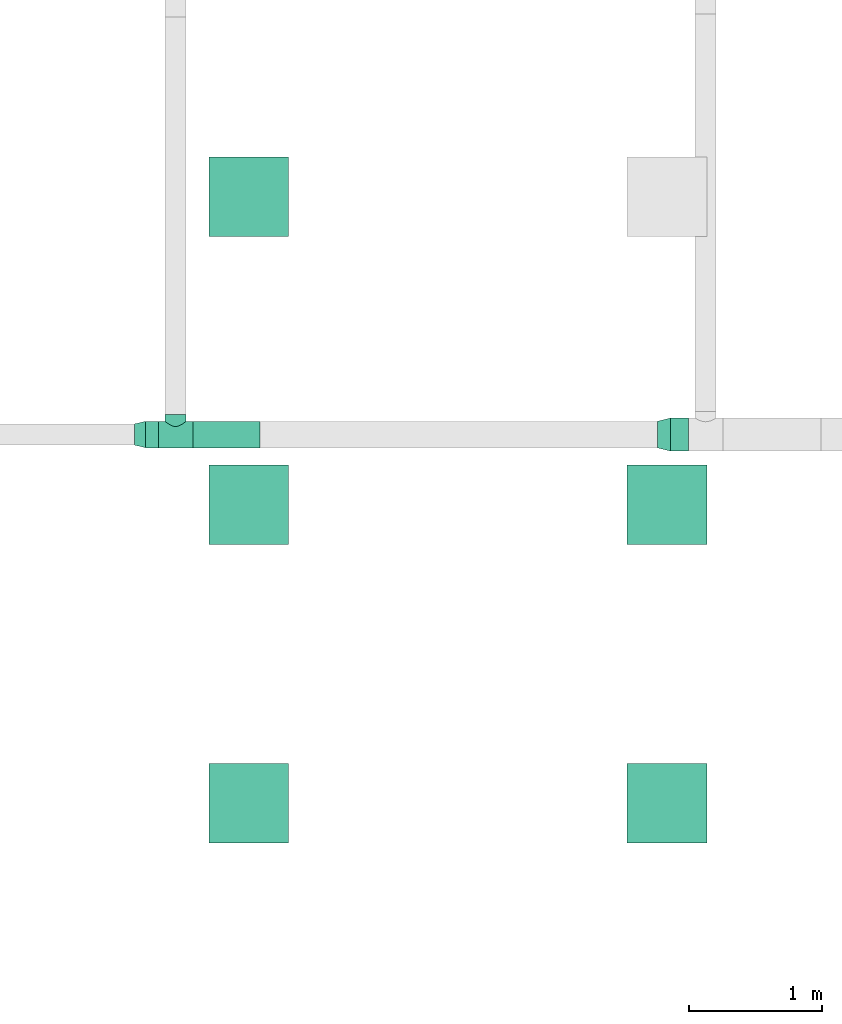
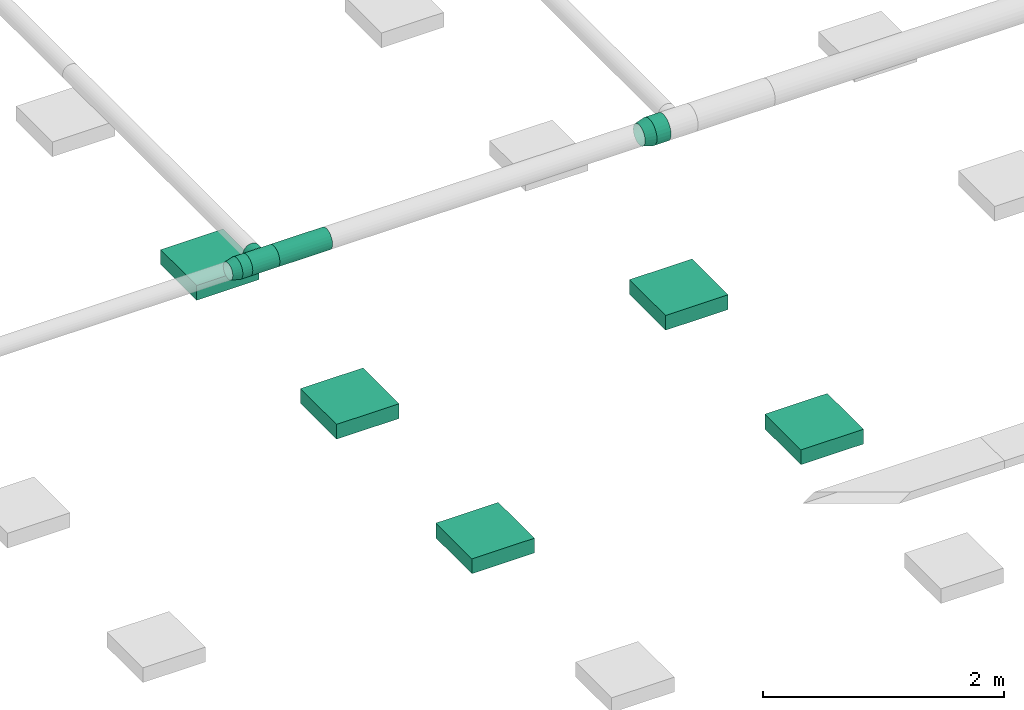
# One storey, part 20 of 374: 5 distribution elements, 3 flow fittings, 3 flow segments.
"""IFC2X3 building model written with IfcOpenShell, lengths in metres."""

import ifcopenshell
import ifcopenshell.guid

model = None  # the IFC model being written
_history = None  # IfcOwnerHistory: only IFC2X3 demands one
_inside = {}  # id of a spatial element -> (the spatial element, [elements in it])
_under = {}  # id of a project, library or spatial element -> (it, [spatial elements below it])
_declared = {}  # id of a project -> (the project, [libraries it declares])
_typed = {}  # id of a type object -> (the type object, [elements of that type])
_made_of = {}  # id of a material, layer set ... -> (it, [elements and type objects made of it])


def new_model(schema):
    """Start an empty IFC model of exactly this schema.

    Asked for "IFC4X3", IfcOpenShell would pick the latest addendum, in which some entities
    have other attributes; the version numbers below select the first issue.
    IFC2X3 requires an IfcOwnerHistory on every rooted entity: one is made here for all.
    """
    global model, _history
    if schema == "IFC4X3":
        model = ifcopenshell.file(schema_version=(4, 3, 0, 0))
    else:
        model = ifcopenshell.file(schema=schema)
    _inside.clear()
    _under.clear()
    _declared.clear()
    _typed.clear()
    _made_of.clear()
    _history = None
    if model.schema == "IFC2X3":
        org = make("IfcOrganization", Name="unknown")
        user = make(
            "IfcPersonAndOrganization",
            ThePerson=make("IfcPerson", FamilyName="unknown"),
            TheOrganization=org,
        )
        app = make(
            "IfcApplication",
            ApplicationDeveloper=org,
            Version="unknown",
            ApplicationFullName="unknown",
            ApplicationIdentifier="unknown",
        )
        _history = make(
            "IfcOwnerHistory",
            OwningUser=user,
            OwningApplication=app,
            ChangeAction="ADDED",
            CreationDate=0,
        )
    return model


def make(cls, **values):
    """One entity of the class cls with the attributes given. An attribute that is None is left unset."""
    return model.create_entity(
        cls, **{name: value for name, value in values.items() if value is not None}
    )


def rooted(cls, **values):
    """An entity with a GlobalId (a new one), such as an element, a storey or a relation."""
    return make(cls, GlobalId=ifcopenshell.guid.new(), OwnerHistory=_history, **values)


def si_unit(unit_type, name, prefix=None):
    """IfcSIUnit, for example si_unit("LENGTHUNIT", "METRE", prefix="MILLI")."""
    return make("IfcSIUnit", UnitType=unit_type, Prefix=prefix, Name=name)


def assignment(units):
    """IfcUnitAssignment: the units of a project."""
    return None if units is None else make("IfcUnitAssignment", Units=units)


def point(xyz):
    """IfcCartesianPoint."""
    return None if xyz is None else make("IfcCartesianPoint", Coordinates=xyz)


def direction(xyz):
    """IfcDirection."""
    return None if xyz is None else make("IfcDirection", DirectionRatios=xyz)


def frame(location, z_axis=None, x_axis=None):
    """IfcAxis2Placement3D, a coordinate frame: its origin and axes. An axis left out is left unset."""
    return make(
        "IfcAxis2Placement3D",
        Location=point(location),
        Axis=direction(z_axis),
        RefDirection=direction(x_axis),
    )


def frame_2d(location, x_axis=None):
    """IfcAxis2Placement2D, a coordinate frame in the plane: its origin and x axis."""
    return make(
        "IfcAxis2Placement2D", Location=point(location), RefDirection=direction(x_axis)
    )


def origin():
    """The frame at (0, 0, 0) with its axes left unset."""
    return frame((0.0, 0.0, 0.0))


def place(relative_to, where):
    """IfcLocalPlacement: puts the frame where relative to a parent placement (None: the world)."""
    return make(
        "IfcLocalPlacement", PlacementRelTo=relative_to, RelativePlacement=where
    )


def context(
    kind, dimensions, precision=None, world=None, true_north=None, identifier=None
):
    """IfcGeometricRepresentationContext, for example the 3D "Model" context."""
    return make(
        "IfcGeometricRepresentationContext",
        ContextIdentifier=identifier,
        ContextType=kind,
        CoordinateSpaceDimension=dimensions,
        Precision=precision,
        WorldCoordinateSystem=world,
        TrueNorth=true_north,
    )


def subcontext(parent, identifier, kind, view, scale=None):
    """IfcGeometricRepresentationSubContext, for example "Body" below "Model"."""
    return make(
        "IfcGeometricRepresentationSubContext",
        ContextIdentifier=identifier,
        ContextType=kind,
        ParentContext=parent,
        TargetScale=scale,
        TargetView=view,
    )


def project(units=None, contexts=None):
    """IfcProject with its units and contexts."""
    return rooted(
        "IfcProject",
        Name="project",
        RepresentationContexts=contexts,
        UnitsInContext=assignment(units),
    )


def spatial(cls, under=None, at=None, **own):
    """A site, building, storey or space (cls), placed at a placement, below another one or the project."""
    s = rooted(cls, ObjectPlacement=at, **own)
    if under is not None:
        _under.setdefault(under.id(), (under, []))[1].append(s)
    return s


def profile(cls, at=None, kind="AREA", **sizes):
    """A parametric profile (cls). Its sizes go by their IFC names, for example OverallWidth=200.0."""
    return make(cls, ProfileType=kind, Position=at, **sizes)


def rectangle(**sizes):
    """IfcRectangleProfileDef."""
    return profile("IfcRectangleProfileDef", **sizes)


def extrude(swept, where, along, depth):
    """IfcExtrudedAreaSolid: the profile swept, set in the frame where, extruded along a direction by depth."""
    return make(
        "IfcExtrudedAreaSolid",
        SweptArea=swept,
        Position=where,
        ExtrudedDirection=direction(along),
        Depth=depth,
    )


def faces_of(points, faces, orient=None, outer=None):
    """IfcFace entities. A face is a list of loops; a loop is a list of indices into points, from 0.

    orient and outer hold one flag for each loop. By default every Orientation is true, the
    first loop of a face is its IfcFaceOuterBound and the others are IfcFaceBound.
    """
    made = []
    for i, loops in enumerate(faces):
        bounds = []
        for j, loop in enumerate(loops):
            is_outer = j == 0 if outer is None else outer[i][j]
            bounds.append(
                make(
                    "IfcFaceOuterBound" if is_outer else "IfcFaceBound",
                    Bound=make("IfcPolyLoop", Polygon=[points[k] for k in loop]),
                    Orientation=True if orient is None else orient[i][j],
                )
            )
        made.append(make("IfcFace", Bounds=bounds))
    return made


def open_shell(faces, orient=None, outer=None):
    """The faces of one IfcOpenShell. surface_model builds it on its shared points."""
    return ("IfcOpenShell", faces, orient, outer)


def surface_model(cls, points, shells):
    """IfcFaceBasedSurfaceModel or IfcShellBasedSurfaceModel (cls): surfaces that need not close."""
    shared = [point(p) for p in points]
    made = [make(c, CfsFaces=faces_of(shared, fs, o, b)) for c, fs, o, b in shells]
    if cls == "IfcFaceBasedSurfaceModel":
        return make(cls, FbsmFaces=made)
    return make(cls, SbsmBoundary=made)


def shape(context_of_items, identifier, shape_type, items):
    """IfcShapeRepresentation: the items that make up one representation, for example the "Body"."""
    return make(
        "IfcShapeRepresentation",
        ContextOfItems=context_of_items,
        RepresentationIdentifier=identifier,
        RepresentationType=shape_type,
        Items=items,
    )


def source(mapping_origin, context_of_items, identifier, shape_type, items):
    """IfcRepresentationMap: a shape defined once, which mapped items show again and again."""
    return make(
        "IfcRepresentationMap",
        MappingOrigin=mapping_origin,
        MappedRepresentation=shape(context_of_items, identifier, shape_type, items),
    )


def transform(
    local_origin,
    x_axis=None,
    y_axis=None,
    z_axis=None,
    scale=None,
    scale2=None,
    scale3=None,
    uniform=True,
):
    """IfcCartesianTransformationOperator3D, or its non-uniform kind. x_axis, y_axis, z_axis: its Axis1, 2, 3."""
    if uniform:
        return make(
            "IfcCartesianTransformationOperator3D",
            Axis1=direction(x_axis),
            Axis2=direction(y_axis),
            LocalOrigin=point(local_origin),
            Scale=scale,
            Axis3=direction(z_axis),
        )
    return make(
        "IfcCartesianTransformationOperator3DnonUniform",
        Axis1=direction(x_axis),
        Axis2=direction(y_axis),
        LocalOrigin=point(local_origin),
        Scale=scale,
        Axis3=direction(z_axis),
        Scale2=scale2,
        Scale3=scale3,
    )


def mapped(mapping_source, mapping_target):
    """IfcMappedItem: shows the shape of a source again, moved by a transform."""
    return make(
        "IfcMappedItem", MappingSource=mapping_source, MappingTarget=mapping_target
    )


def made_of(thing, what):
    """Note that an element or type object is made of a material, layer set ...; save() writes the relation."""
    if what is not None:
        _made_of.setdefault(what.id(), (what, []))[1].append(thing)
    return thing


def element(
    cls,
    number,
    at=None,
    inside=None,
    cuts=None,
    type_object=None,
    material=None,
    context=None,
    identifier="Body",
    shape_type=None,
    held_by="IfcProductDefinitionShape",
    body=None,
    shapes=None,
    **own,
):
    """One element of the class cls, such as IfcWall. Its Tag is "e" and its number.

    at: its placement. inside: the storey or other place that contains it. cuts: it is an
    opening in that element (IfcRelVoidsElement). A single representation is given by context,
    identifier, shape_type and body (its items); several are given by shapes. held_by: the class
    of the entity that holds the representations. save() writes the other relations.
    """
    e = rooted(cls, Tag="e%d" % number, ObjectPlacement=at, **own)
    if body is not None:
        shapes = [shape(context, identifier, shape_type, body)]
    if shapes is not None:
        e.Representation = make(held_by, Representations=shapes)
    if inside is not None:
        _inside.setdefault(inside.id(), (inside, []))[1].append(e)
    if cuts is not None:
        rooted(
            "IfcRelVoidsElement", RelatingBuildingElement=cuts, RelatedOpeningElement=e
        )
    if type_object is not None:
        _typed.setdefault(type_object.id(), (type_object, []))[1].append(e)
    return made_of(e, material)


def aggregate(whole, parts):
    """IfcRelAggregates: a whole, such as a stair, and the parts it consists of."""
    return rooted("IfcRelAggregates", RelatingObject=whole, RelatedObjects=parts)


def save(model, path):
    """Write the relations noted so far, then the file.

    IfcRelAggregates (storeys below a building ...), IfcRelContainedInSpatialStructure (elements
    in a storey), IfcRelDefinesByType, IfcRelAssociatesMaterial and IfcRelDeclares: one each for
    every whole, place, type object, material and project.
    """
    for whole, parts in _under.values():
        aggregate(whole, parts)
    for where, things in _inside.values():
        rooted(
            "IfcRelContainedInSpatialStructure",
            RelatedElements=things,
            RelatingStructure=where,
        )
    for kind, things in _typed.values():
        rooted("IfcRelDefinesByType", RelatedObjects=things, RelatingType=kind)
    for what, things in _made_of.values():
        rooted("IfcRelAssociatesMaterial", RelatedObjects=things, RelatingMaterial=what)
    for by, libraries in _declared.values():
        rooted("IfcRelDeclares", RelatingContext=by, RelatedDefinitions=libraries)
    model.write(path)


model = new_model("IFC2X3")

# Units and contexts
model_context = context("Model", 3, precision=1e-05, world=origin(), true_north=direction((-0.4480736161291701, 0.8939966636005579)))
body_context = subcontext(model_context, "Body", "Model", "MODEL_VIEW")
ifc_project = project(units=[si_unit("LENGTHUNIT", "METRE"), si_unit("AREAUNIT", "SQUARE_METRE"), si_unit("VOLUMEUNIT", "CUBIC_METRE"), si_unit("PLANEANGLEUNIT", "RADIAN"), si_unit("THERMODYNAMICTEMPERATUREUNIT", "KELVIN"), si_unit("MASSUNIT", "GRAM", prefix="KILO"), si_unit("TIMEUNIT", "SECOND")], contexts=[model_context])

# Site, building, storey
site_placement = place(None, origin())
site = spatial("IfcSite", under=ifc_project, at=site_placement, Name="Site 1", CompositionType="ELEMENT")
building_placement = place(site_placement, origin())
building = spatial("IfcBuilding", under=site, at=building_placement, Name="Undefined", CompositionType="ELEMENT")
storey_placement = place(building_placement, origin())
storey = spatial("IfcBuildingStorey", under=building, at=storey_placement, Name="Rez de chauss\x8ee", CompositionType="ELEMENT", Elevation=0.0)

# Flow segments
shared_shape_1 = source(origin(), body_context, "Body", "SurfaceModel", [
    surface_model("IfcFaceBasedSurfaceModel", [(0.0, 0.03263154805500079, 0.0), (0.0, 0.0, 0.0), (0.13500000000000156, -7.105427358e-15, 8.8817842e-16), (0.13500000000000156, 0.03263154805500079, 8.8817842e-16), (0.0, -0.031519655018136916, -0.008445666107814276), (0.13500000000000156, -0.03151965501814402, -0.008445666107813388), (0.0, -0.05977940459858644, -0.024761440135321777), (0.13500000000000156, -0.05977940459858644, -0.02476144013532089), (0.0, -0.08285339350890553, -0.047835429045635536), (0.13500000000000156, -0.08285339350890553, -0.04783542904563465), (0.0, -0.09916916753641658, -0.07609517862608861), (0.13500000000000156, -0.09916916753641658, -0.07609517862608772), (0.0, -0.1076148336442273, -0.10761483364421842), (0.13500000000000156, -0.10761483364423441, -0.10761483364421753), (0.0, -0.1076148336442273, -0.14024638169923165), (0.13500000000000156, -0.1076148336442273, -0.14024638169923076), (0.0, -0.09916916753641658, -0.17176603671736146), (0.13500000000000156, -0.09916916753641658, -0.17176603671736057), (0.0, -0.08285339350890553, -0.2000257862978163), (0.13500000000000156, -0.08285339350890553, -0.20002578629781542), (0.0, -0.059779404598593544, -0.22309977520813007), (0.13500000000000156, -0.05977940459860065, -0.2230997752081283), (0.0, -0.03151965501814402, -0.23941554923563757), (0.13500000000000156, -0.03151965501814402, -0.23941554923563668), (0.0, -1.4210854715e-14, -0.24786121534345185), (0.13500000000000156, -1.4210854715e-14, -0.24786121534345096), (0.0, 0.03263154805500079, -0.24786121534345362), (0.13500000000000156, 0.03263154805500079, -0.24786121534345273), (0.0, 0.0641512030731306, -0.23941554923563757), (0.13500000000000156, 0.0641512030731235, -0.23941554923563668), (0.0, 0.09241095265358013, -0.22309977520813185), (0.13500000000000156, 0.09241095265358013, -0.22309977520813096), (0.0, 0.11548494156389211, -0.2000257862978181), (0.13500000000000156, 0.11548494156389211, -0.2000257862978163), (0.0, 0.13180071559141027, -0.171766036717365), (0.13500000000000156, 0.13180071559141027, -0.17176603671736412), (0.0, 0.140246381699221, -0.1402463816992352), (0.13500000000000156, 0.14024638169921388, -0.14024638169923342), (0.0, 0.140246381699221, -0.10761483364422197), (0.13500000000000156, 0.140246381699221, -0.10761483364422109), (0.0, 0.13180071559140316, -0.07609517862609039), (0.13500000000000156, 0.13180071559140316, -0.07609517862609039), (0.0, 0.11548494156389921, -0.04783542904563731), (0.13500000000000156, 0.11548494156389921, -0.047835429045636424), (0.0, 0.09241095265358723, -0.024761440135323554), (0.13500000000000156, 0.09241095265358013, -0.024761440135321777), (0.0, 0.06415120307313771, -0.008445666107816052), (0.13500000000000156, 0.06415120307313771, -0.008445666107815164)], [open_shell([[[0, 1, 2, 3]], [[1, 4, 5, 2]], [[4, 6, 7, 5]], [[6, 8, 9, 7]], [[8, 10, 11, 9]], [[10, 12, 13, 11]], [[12, 14, 15, 13]], [[14, 16, 17, 15]], [[16, 18, 19, 17]], [[18, 20, 21, 19]], [[20, 22, 23, 21]], [[22, 24, 25, 23]], [[24, 26, 27, 25]], [[26, 28, 29, 27]], [[28, 30, 31, 29]], [[30, 32, 33, 31]], [[32, 34, 35, 33]], [[34, 36, 37, 35]], [[36, 38, 39, 37]], [[38, 40, 41, 39]], [[40, 42, 43, 41]], [[42, 44, 45, 43]], [[44, 46, 47, 45]], [[46, 0, 3, 47]]])]),
])
flow_segment_1_placement = place(storey_placement, origin())
element("IfcFlowSegment", 1, at=flow_segment_1_placement, inside=storey, Name="Manchon", ObjectType="Manchon", context=body_context, shape_type="MappedRepresentation", body=[
    mapped(shared_shape_1, transform((10.850053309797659, 10.951546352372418, 3.920740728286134), x_axis=(-1.0, 0.0, 0.0), y_axis=(7.266545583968e-12, -0.9914448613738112, 0.13052619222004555), z_axis=(0.0, 0.13052619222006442, 0.9914448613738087))),
])
shared_shape_2 = source(origin(), body_context, "Body", "SurfaceModel", [
    surface_model("IfcFaceBasedSurfaceModel", [(0.0, 0.02610523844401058, 0.0), (0.0, 0.0, 0.0), (0.09500000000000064, -7.105427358e-15, 0.0), (0.09500000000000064, 0.02610523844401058, 0.0), (0.0, -0.025215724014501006, -0.006756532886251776), (0.09500000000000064, -0.025215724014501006, -0.006756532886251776), (0.0, -0.04782352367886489, -0.019809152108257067), (0.09500000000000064, -0.04782352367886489, -0.019809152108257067), (0.0, -0.066282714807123, -0.038268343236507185), (0.09500000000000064, -0.066282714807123, -0.038268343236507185), (0.0, -0.07933533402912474, -0.06087614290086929), (0.09500000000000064, -0.07933533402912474, -0.06087614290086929), (0.0, -0.08609186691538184, -0.08609186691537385), (0.09500000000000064, -0.08609186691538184, -0.08609186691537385), (0.0, -0.08609186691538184, -0.11219710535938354), (0.09500000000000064, -0.08609186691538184, -0.11219710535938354), (0.0, -0.07933533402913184, -0.1374128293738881), (0.09500000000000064, -0.07933533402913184, -0.1374128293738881), (0.0, -0.066282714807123, -0.16002062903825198), (0.09500000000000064, -0.066282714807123, -0.16002062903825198), (0.0, -0.04782352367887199, -0.17847982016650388), (0.09500000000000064, -0.04782352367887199, -0.17847982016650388), (0.0, -0.025215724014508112, -0.19153243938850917), (0.09500000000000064, -0.025215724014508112, -0.19153243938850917), (0.0, -7.105427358e-15, -0.19828897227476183), (0.09500000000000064, -7.105427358e-15, -0.19828897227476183), (0.0, 0.026105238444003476, -0.19828897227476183), (0.09500000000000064, 0.026105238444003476, -0.19828897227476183), (0.0, 0.05132096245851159, -0.19153243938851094), (0.09500000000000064, 0.05132096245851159, -0.19153243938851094), (0.0, 0.07392876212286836, -0.17847982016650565), (0.09500000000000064, 0.07392876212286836, -0.17847982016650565), (0.0, 0.09238795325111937, -0.16002062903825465), (0.09500000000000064, 0.09238795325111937, -0.16002062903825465), (0.0, 0.10544057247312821, -0.13741282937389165), (0.09500000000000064, 0.10544057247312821, -0.13741282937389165), (0.0, 0.11219710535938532, -0.11219710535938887), (0.09500000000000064, 0.11219710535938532, -0.11219710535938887), (0.0, 0.11219710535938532, -0.08609186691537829), (0.09500000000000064, 0.11219710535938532, -0.08609186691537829), (0.0, 0.10544057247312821, -0.06087614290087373), (0.09500000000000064, 0.10544057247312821, -0.06087614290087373), (0.0, 0.09238795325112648, -0.03826834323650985), (0.09500000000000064, 0.09238795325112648, -0.03826834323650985), (0.0, 0.07392876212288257, -0.019809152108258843), (0.09500000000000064, 0.07392876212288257, -0.019809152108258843), (0.0, 0.05132096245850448, -0.006756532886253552), (0.09500000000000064, 0.05132096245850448, -0.006756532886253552)], [open_shell([[[0, 1, 2, 3]], [[1, 4, 5, 2]], [[4, 6, 7, 5]], [[6, 8, 9, 7]], [[8, 10, 11, 9]], [[10, 12, 13, 11]], [[12, 14, 15, 13]], [[14, 16, 17, 15]], [[16, 18, 19, 17]], [[18, 20, 21, 19]], [[20, 22, 23, 21]], [[22, 24, 25, 23]], [[24, 26, 27, 25]], [[26, 28, 29, 27]], [[28, 30, 31, 29]], [[30, 32, 33, 31]], [[32, 34, 35, 33]], [[34, 36, 37, 35]], [[36, 38, 39, 37]], [[38, 40, 41, 39]], [[40, 42, 43, 41]], [[42, 44, 45, 43]], [[44, 46, 47, 45]], [[46, 0, 3, 47]]])]),
])
flow_segment_2_placement = place(storey_placement, origin())
element("IfcFlowSegment", 2, at=flow_segment_2_placement, inside=storey, Name="Manchon", ObjectType="Manchon", context=body_context, shape_type="MappedRepresentation", body=[
    mapped(shared_shape_2, transform((6.850053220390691, 10.945075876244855, 3.8965925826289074), x_axis=(-1.0, 0.0, 0.0), y_axis=(7.266545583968e-12, -0.9914448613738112, 0.13052619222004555), z_axis=(0.0, 0.13052619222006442, 0.9914448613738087))),
])

# Flow fitting
shared_shape_3 = source(origin(), body_context, "Body", "SurfaceModel", [
    surface_model("IfcFaceBasedSurfaceModel", [(0.000780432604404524, 0.02609357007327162, 7.105427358e-15), (0.0, 0.0, 0.0), (0.08732124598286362, 1.776356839e-15, 7.105427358e-15), (0.08794559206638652, 0.020874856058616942, 0.0), (0.0007804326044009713, -0.025250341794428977, -0.006579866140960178), (0.08794559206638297, -0.020200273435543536, -0.0052638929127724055), (0.003068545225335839, -0.047936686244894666, -0.0192911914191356), (0.08977608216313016, -0.03834934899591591, -0.015432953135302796), (0.00670840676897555, -0.06651299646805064, -0.03726772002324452), (0.09268797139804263, -0.05321039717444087, -0.029814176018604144), (0.011451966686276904, -0.07971332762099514, -0.059284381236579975), (0.0964828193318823, -0.06377066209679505, -0.047427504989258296), (0.016975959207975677, -0.08663809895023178, -0.08384077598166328), (0.10090201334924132, -0.06931047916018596, -0.06707262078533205), (0.022903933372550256, -0.08681539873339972, -0.10926342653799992), (0.10564439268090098, -0.06945231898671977, -0.08741074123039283), (0.028831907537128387, -0.08023314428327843, -0.13381982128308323), (0.1103867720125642, -0.06418651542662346, -0.10705585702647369), (0.03435590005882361, -0.06733990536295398, -0.15583648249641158), (0.11480596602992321, -0.05387192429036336, -0.12466918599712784), (0.03909945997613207, -0.04901433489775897, -0.1738130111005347), (0.11860081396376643, -0.03921146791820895, -0.1390504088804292), (0.042739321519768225, -0.026505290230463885, -0.18652433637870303), (0.1215127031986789, -0.021204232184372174, -0.14921946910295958), (0.045027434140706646, -0.001346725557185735, -0.1931042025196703), (0.12334319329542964, -0.0010773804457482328, -0.1544833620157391), (0.045807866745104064, 0.02474684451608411, -0.1931042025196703), (0.12396753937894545, 0.019797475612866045, -0.15448336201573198), (0.045027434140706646, 0.04999718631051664, -0.18652433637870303), (0.12334319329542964, 0.03999774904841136, -0.14921946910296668), (0.042739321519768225, 0.07268353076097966, -0.1738130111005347), (0.12151270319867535, 0.05814682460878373, -0.1390504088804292), (0.039099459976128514, 0.09125984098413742, -0.15583648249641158), (0.11860081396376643, 0.0730078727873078, -0.12466918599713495), (0.03435590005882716, 0.10446017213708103, -0.13381982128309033), (0.11480596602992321, 0.08356813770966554, -0.10705585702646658), (0.028831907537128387, 0.11138494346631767, -0.10926342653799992), (0.1103867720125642, 0.08910795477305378, -0.08741074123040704), (0.02290393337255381, 0.1115622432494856, -0.08384077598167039), (0.10564439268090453, 0.08924979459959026, -0.06707262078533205), (0.016975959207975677, 0.10497998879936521, -0.05928438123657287), (0.10090201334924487, 0.08398399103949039, -0.0474275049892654), (0.011451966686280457, 0.09208674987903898, -0.03726772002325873), (0.0964828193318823, 0.07366939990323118, -0.029814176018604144), (0.00670840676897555, 0.07376117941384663, -0.019291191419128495), (0.09268797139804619, 0.059008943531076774, -0.015432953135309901), (0.003068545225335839, 0.05125213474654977, -0.006579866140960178), (0.08977608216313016, 0.041001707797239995, -0.0052638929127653)], [open_shell([[[0, 1, 2, 3]], [[1, 4, 5, 2]], [[4, 6, 7, 5]], [[6, 8, 9, 7]], [[8, 10, 11, 9]], [[10, 12, 13, 11]], [[12, 14, 15, 13]], [[14, 16, 17, 15]], [[16, 18, 19, 17]], [[18, 20, 21, 19]], [[20, 22, 23, 21]], [[22, 24, 25, 23]], [[24, 26, 27, 25]], [[26, 28, 29, 27]], [[28, 30, 31, 29]], [[30, 32, 33, 31]], [[32, 34, 35, 33]], [[34, 36, 37, 35]], [[36, 38, 39, 37]], [[38, 40, 41, 39]], [[40, 42, 43, 41]], [[42, 44, 45, 43]], [[44, 46, 47, 45]], [[46, 0, 3, 47]]])]),
])
flow_fitting_1_placement = place(storey_placement, origin())
element("IfcFlowFitting", 3, at=flow_fitting_1_placement, inside=storey, Name="Réduction conique", ObjectType="Réduction conique", context=body_context, shape_type="MappedRepresentation", body=[
    mapped(shared_shape_3, transform((6.755053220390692, 11.015786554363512, 3.774118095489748), x_axis=(-0.973417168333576, -0.22123500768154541, 0.05927974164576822), y_axis=(0.029113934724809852, 0.13720147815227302, 0.9901152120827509), z_axis=(-0.22718141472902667, 0.9655210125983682, -0.12711325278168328))),
])

# Flow segment
shared_shape_4 = source(origin(), body_context, "Body", "SurfaceModel", [
    surface_model("IfcFaceBasedSurfaceModel", [(0.0, 0.02610523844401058, 0.0), (0.0, 0.0, 0.0), (0.5060000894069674, 4.4408921e-16, 4.4408921e-16), (0.5060000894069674, 0.026105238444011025, 0.0), (0.0, -0.025215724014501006, -0.006756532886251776), (0.5060000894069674, -0.02521572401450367, -0.006756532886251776), (0.0, -0.04782352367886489, -0.019809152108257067), (0.5060000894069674, -0.04782352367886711, -0.019809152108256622), (0.0, -0.066282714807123, -0.038268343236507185), (0.5060000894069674, -0.06628271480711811, -0.03826834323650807), (0.0, -0.07933533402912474, -0.06087614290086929), (0.5060000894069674, -0.0793353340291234, -0.060876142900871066), (0.0, -0.08609186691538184, -0.08609186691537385), (0.5060000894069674, -0.08609186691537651, -0.08609186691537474), (0.0, -0.08609186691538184, -0.11219710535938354), (0.5060000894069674, -0.08609186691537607, -0.11219710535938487), (0.0, -0.07933533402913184, -0.1374128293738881), (0.5060000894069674, -0.0793353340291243, -0.137412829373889), (0.0, -0.066282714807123, -0.16002062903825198), (0.5060000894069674, -0.06628271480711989, -0.16002062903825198), (0.0, -0.04782352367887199, -0.17847982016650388), (0.5060000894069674, -0.04782352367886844, -0.17847982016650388), (0.0, -0.025215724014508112, -0.19153243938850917), (0.5060000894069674, -0.025215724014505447, -0.19153243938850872), (0.0, -7.105427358e-15, -0.19828897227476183), (0.5060000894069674, -8.8817842e-16, -0.1982889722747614), (0.0, 0.026105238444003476, -0.19828897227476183), (0.5060000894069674, 0.026105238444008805, -0.19828897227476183), (0.0, 0.05132096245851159, -0.19153243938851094), (0.5060000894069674, 0.051320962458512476, -0.1915324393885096), (0.0, 0.07392876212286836, -0.17847982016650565), (0.5060000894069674, 0.07392876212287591, -0.17847982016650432), (0.0, 0.09238795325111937, -0.16002062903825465), (0.5060000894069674, 0.09238795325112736, -0.16002062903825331), (0.0, 0.10544057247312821, -0.13741282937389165), (0.5060000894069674, 0.1054405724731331, -0.13741282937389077), (0.0, 0.11219710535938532, -0.11219710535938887), (0.5060000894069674, 0.11219710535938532, -0.11219710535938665), (0.0, 0.11219710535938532, -0.08609186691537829), (0.5060000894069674, 0.1121971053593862, -0.08609186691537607), (0.0, 0.10544057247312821, -0.06087614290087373), (0.5060000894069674, 0.10544057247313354, -0.0608761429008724), (0.0, 0.09238795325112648, -0.03826834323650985), (0.5060000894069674, 0.0923879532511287, -0.038268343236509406), (0.0, 0.07392876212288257, -0.019809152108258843), (0.5060000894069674, 0.07392876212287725, -0.01980915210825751), (0.0, 0.05132096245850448, -0.006756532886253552), (0.5060000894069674, 0.05132096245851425, -0.006756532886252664)], [open_shell([[[0, 1, 2, 3]], [[1, 4, 5, 2]], [[4, 6, 7, 5]], [[6, 8, 9, 7]], [[8, 10, 11, 9]], [[10, 12, 13, 11]], [[12, 14, 15, 13]], [[14, 16, 17, 15]], [[16, 18, 19, 17]], [[18, 20, 21, 19]], [[20, 22, 23, 21]], [[22, 24, 25, 23]], [[24, 26, 27, 25]], [[26, 28, 29, 27]], [[28, 30, 31, 29]], [[30, 32, 33, 31]], [[32, 34, 35, 33]], [[34, 36, 37, 35]], [[36, 38, 39, 37]], [[38, 40, 41, 39]], [[40, 42, 43, 41]], [[42, 44, 45, 43]], [[44, 46, 47, 45]], [[46, 0, 3, 47]]])]),
])
flow_segment_3_placement = place(storey_placement, origin())
element("IfcFlowSegment", 4, at=flow_segment_3_placement, inside=storey, Name="Tube", ObjectType="Tube", context=body_context, shape_type="MappedRepresentation", body=[
    mapped(shared_shape_4, transform((7.616053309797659, 10.945075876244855, 3.8965925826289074), x_axis=(-1.0, 0.0, 0.0), y_axis=(7.266545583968e-12, -0.9914448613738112, 0.13052619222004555), z_axis=(0.0, 0.13052619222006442, 0.9914448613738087))),
])

# Flow fittings
shared_shape_5 = source(origin(), body_context, "Body", "SurfaceModel", [
    surface_model("IfcFaceBasedSurfaceModel", [(0.0, 0.02610523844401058, 0.0), (0.0, 0.0, 0.0), (0.2599999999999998, -7.105427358e-15, 0.0), (0.2599999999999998, 0.026105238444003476, -1.776356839e-15), (0.0, -0.025215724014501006, -0.006756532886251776), (0.2599999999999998, -0.025215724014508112, -0.006756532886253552), (0.0, -0.04782352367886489, -0.019809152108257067), (0.2599999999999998, -0.04782352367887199, -0.019809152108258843), (0.0, -0.066282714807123, -0.038268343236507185), (0.2599999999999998, -0.0662827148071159, -0.03826834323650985), (0.0, -0.07933533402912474, -0.06087614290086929), (0.2599999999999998, -0.07933533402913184, -0.060876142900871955), (0.0, -0.08609186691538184, -0.08609186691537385), (0.2599999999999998, -0.08609186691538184, -0.08609186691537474), (0.0, -0.08609186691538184, -0.11219710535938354), (0.2599999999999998, -0.08609186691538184, -0.1121971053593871), (0.0, -0.07933533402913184, -0.1374128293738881), (0.2599999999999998, -0.07933533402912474, -0.13741282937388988), (0.0, -0.066282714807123, -0.16002062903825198), (0.2599999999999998, -0.066282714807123, -0.16002062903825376), (0.0, -0.04782352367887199, -0.17847982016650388), (0.2599999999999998, -0.04782352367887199, -0.17847982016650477), (0.0, -0.025215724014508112, -0.19153243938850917), (0.2599999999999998, -0.025215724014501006, -0.19153243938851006), (0.0, -7.105427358e-15, -0.19828897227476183), (0.2599999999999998, -7.105427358e-15, -0.1982889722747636), (0.0, 0.026105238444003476, -0.19828897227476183), (0.2599999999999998, 0.026105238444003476, -0.19828897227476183), (0.0, 0.05132096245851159, -0.19153243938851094), (0.2599999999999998, 0.05132096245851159, -0.19153243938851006), (0.0, 0.07392876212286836, -0.17847982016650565), (0.2599999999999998, 0.07392876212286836, -0.17847982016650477), (0.0, 0.09238795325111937, -0.16002062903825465), (0.2599999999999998, 0.09238795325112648, -0.16002062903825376), (0.0, 0.10544057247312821, -0.13741282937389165), (0.2599999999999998, 0.10544057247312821, -0.13741282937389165), (0.0, 0.11219710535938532, -0.11219710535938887), (0.2599999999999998, 0.11219710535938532, -0.1121971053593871), (0.0, 0.11219710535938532, -0.08609186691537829), (0.2599999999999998, 0.11219710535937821, -0.08609186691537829), (0.0, 0.10544057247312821, -0.06087614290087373), (0.2599999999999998, 0.10544057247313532, -0.060876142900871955), (0.0, 0.09238795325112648, -0.03826834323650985), (0.2599999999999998, 0.09238795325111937, -0.03826834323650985), (0.0, 0.07392876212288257, -0.019809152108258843), (0.2599999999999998, 0.07392876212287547, -0.019809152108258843), (0.0, 0.05132096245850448, -0.006756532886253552), (0.2599999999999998, 0.05132096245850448, -0.006756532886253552), (0.20999999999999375, 0.11219710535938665, -0.11219710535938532), (0.2072740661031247, 0.10734595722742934, -0.13244263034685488), (0.2072740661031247, 0.15906673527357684, -0.13925179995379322), (0.20999999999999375, 0.16176934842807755, -0.11872341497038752), (0.19928203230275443, 0.09869899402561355, -0.15076520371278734), (0.19928203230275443, 0.15654830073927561, -0.15838120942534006), (0.18656854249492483, 0.08742558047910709, -0.16599254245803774), (0.18656854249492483, 0.15438567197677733, -0.1748080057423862), (0.1699999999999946, 0.07550360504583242, -0.17724617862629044), (0.1699999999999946, 0.15272622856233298, -0.18741272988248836), (0.15070552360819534, 0.06589550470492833, -0.18404224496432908), (0.15070552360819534, 0.15168305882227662, -0.19533639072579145), (0.12999999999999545, 0.06209721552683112, -0.18629164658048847), (0.12999999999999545, 0.15132725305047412, -0.1980390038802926), (0.10929447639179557, 0.06589550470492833, -0.18404224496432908), (0.10929447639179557, 0.15168305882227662, -0.19533639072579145), (0.0899999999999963, 0.07550360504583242, -0.17724617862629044), (0.0899999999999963, 0.15272622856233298, -0.18741272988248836), (0.07343145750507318, 0.08742558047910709, -0.16599254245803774), (0.07343145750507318, 0.15438567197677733, -0.1748080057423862), (0.06071796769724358, 0.09869899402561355, -0.15076520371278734), (0.06071796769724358, 0.15654830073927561, -0.15838120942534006), (0.052725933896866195, 0.10734595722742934, -0.13244263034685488), (0.052725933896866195, 0.15906673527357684, -0.13925179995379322), (0.04999999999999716, 0.11219710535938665, -0.11219710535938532), (0.04999999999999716, 0.16176934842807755, -0.11872341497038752), (0.052725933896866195, 0.11275118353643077, -0.09138586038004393), (0.052725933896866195, 0.16447196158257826, -0.09819502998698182), (0.06071796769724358, 0.10914108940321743, -0.07144961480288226), (0.06071796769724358, 0.16699039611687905, -0.07906562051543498), (0.07343145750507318, 0.10219293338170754, -0.053823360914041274), (0.07343145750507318, 0.16915302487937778, -0.06263882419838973), (0.0899999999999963, 0.09358984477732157, -0.03986754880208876), (0.0899999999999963, 0.17081246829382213, -0.05003410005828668), (0.10929447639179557, 0.0860680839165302, -0.030816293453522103), (0.10929447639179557, 0.1718556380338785, -0.04211043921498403), (0.12999999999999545, 0.08298140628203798, -0.027660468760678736), (0.12999999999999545, 0.17221144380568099, -0.039407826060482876), (0.15070552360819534, 0.0860680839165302, -0.030816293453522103), (0.15070552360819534, 0.1718556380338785, -0.04211043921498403), (0.1699999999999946, 0.09358984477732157, -0.03986754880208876), (0.1699999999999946, 0.17081246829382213, -0.05003410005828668), (0.18656854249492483, 0.10219293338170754, -0.053823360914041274), (0.18656854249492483, 0.16915302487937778, -0.06263882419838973), (0.19928203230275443, 0.10914108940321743, -0.07144961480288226), (0.19928203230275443, 0.16699039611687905, -0.07906562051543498), (0.2072740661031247, 0.11275118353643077, -0.09138586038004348), (0.2072740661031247, 0.16447196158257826, -0.09819502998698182)], [open_shell([[[0, 1, 2, 3]], [[1, 4, 5, 2]], [[4, 6, 7, 5]], [[6, 8, 9, 7]], [[8, 10, 11, 9]], [[10, 12, 13, 11]], [[12, 14, 15, 13]], [[14, 16, 17, 15]], [[16, 18, 19, 17]], [[18, 20, 21, 19]], [[20, 22, 23, 21]], [[22, 24, 25, 23]], [[24, 26, 27, 25]], [[26, 28, 29, 27]], [[28, 30, 31, 29]], [[30, 32, 33, 31]], [[32, 34, 35, 33]], [[34, 36, 37, 35]], [[36, 38, 39, 37]], [[38, 40, 41, 39]], [[40, 42, 43, 41]], [[42, 44, 45, 43]], [[44, 46, 47, 45]], [[46, 0, 3, 47]], [[48, 49, 50, 51]], [[49, 52, 53, 50]], [[52, 54, 55, 53]], [[54, 56, 57, 55]], [[56, 58, 59, 57]], [[58, 60, 61, 59]], [[60, 62, 63, 61]], [[62, 64, 65, 63]], [[64, 66, 67, 65]], [[66, 68, 69, 67]], [[68, 70, 71, 69]], [[70, 72, 73, 71]], [[72, 74, 75, 73]], [[74, 76, 77, 75]], [[76, 78, 79, 77]], [[78, 80, 81, 79]], [[80, 82, 83, 81]], [[82, 84, 85, 83]], [[84, 86, 87, 85]], [[86, 88, 89, 87]], [[88, 90, 91, 89]], [[90, 92, 93, 91]], [[92, 94, 95, 93]], [[94, 48, 51, 95]]])]),
])
flow_fitting_2_placement = place(storey_placement, origin())
element("IfcFlowFitting", 5, at=flow_fitting_2_placement, inside=storey, Name="Pièce en té 90°", ObjectType="Pièce en té 90°", context=body_context, shape_type="MappedRepresentation", body=[
    mapped(shared_shape_5, transform((6.850053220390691, 10.893312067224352, 3.8965925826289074), x_axis=(1.0, 0.0, 0.0), y_axis=(0.0, 0.9914448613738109, 0.1305261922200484), z_axis=(0.0, -0.1305261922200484, 0.9914448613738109))),
])
shared_shape_6 = source(origin(), body_context, "Body", "SurfaceModel", [
    surface_model("IfcFaceBasedSurfaceModel", [(0.1021077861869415, 8.8817842e-16, 7.105427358e-15), (0.10106494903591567, 0.032614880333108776, -1.443289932e-15), (-0.0008342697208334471, 0.02609190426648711, -1.609823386e-15), (0.0, 0.0, 0.0), (0.09800750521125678, 0.06405288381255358, -0.008192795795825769), (-0.003280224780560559, 0.05124230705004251, -0.006554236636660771), (0.0931438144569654, 0.0921715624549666, -0.02402006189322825), (-0.0071711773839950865, 0.07373724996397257, -0.01921604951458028), (0.08680532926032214, 0.11505467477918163, -0.046403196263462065), (-0.012241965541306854, 0.09204373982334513, -0.03712255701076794), (0.07942400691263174, 0.13114277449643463, -0.07381682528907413), (-0.018147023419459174, 0.10491421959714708, -0.05905346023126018), (0.07150287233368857, 0.13933948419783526, -0.1043927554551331), (-0.024483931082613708, 0.11147158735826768, -0.08351420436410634), (0.0635817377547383, 0.13908621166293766, -0.13604728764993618), (-0.030820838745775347, 0.11126896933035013, -0.10883783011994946), (0.0562004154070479, 0.130400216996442, -0.1666232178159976), (-0.03672589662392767, 0.10432017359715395, -0.13329857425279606), (0.04986193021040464, 0.11387343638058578, -0.19403684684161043), (-0.041796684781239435, 0.09109874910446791, -0.15522947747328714), (0.04499823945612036, 0.09063214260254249, -0.21641998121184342), (-0.04568763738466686, 0.07250571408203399, -0.1731359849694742), (0.04194079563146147, 0.062260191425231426, -0.23224724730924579), (-0.048133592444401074, 0.049808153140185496, -0.18579779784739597), (0.04089795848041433, 0.030691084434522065, -0.24044004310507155), (-0.04896786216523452, 0.02455286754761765, -0.19235203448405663), (0.04194079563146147, -0.0019237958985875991, -0.24044004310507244), (-0.048133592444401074, -0.0015390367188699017, -0.1923520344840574), (0.04499823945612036, -0.033361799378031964, -0.23224724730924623), (-0.04568763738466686, -0.02668943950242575, -0.18579779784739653), (0.04986193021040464, -0.061480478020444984, -0.21641998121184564), (-0.041796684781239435, -0.049184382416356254, -0.1731359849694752), (0.0562004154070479, -0.08436359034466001, -0.19403684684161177), (-0.03672589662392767, -0.06749087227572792, -0.15522947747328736), (0.0635817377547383, -0.10045169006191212, -0.16662321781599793), (-0.030820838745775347, -0.08036135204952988, -0.13329857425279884), (0.07150287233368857, -0.1086483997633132, -0.13604728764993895), (-0.024483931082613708, -0.08691871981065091, -0.1088378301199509), (0.07942400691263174, -0.10839512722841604, -0.10439275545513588), (-0.018147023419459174, -0.08671610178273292, -0.08351420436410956), (0.08680532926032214, -0.09970913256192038, -0.07381682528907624), (-0.012241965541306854, -0.0797673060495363, -0.05905346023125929), (0.0931438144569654, -0.08318235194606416, -0.0464031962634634), (-0.0071711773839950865, -0.0665458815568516, -0.03712255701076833), (0.09800750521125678, -0.059941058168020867, -0.024020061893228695), (-0.003280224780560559, -0.047952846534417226, -0.01921604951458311), (0.10106494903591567, -0.03156910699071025, -0.008192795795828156), (-0.0008342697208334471, -0.02525528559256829, -0.006554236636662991)], [open_shell([[[0, 1, 2, 3]], [[1, 4, 5, 2]], [[4, 6, 7, 5]], [[6, 8, 9, 7]], [[8, 10, 11, 9]], [[10, 12, 13, 11]], [[12, 14, 15, 13]], [[14, 16, 17, 15]], [[16, 18, 19, 17]], [[18, 20, 21, 19]], [[20, 22, 23, 21]], [[22, 24, 25, 23]], [[24, 26, 27, 25]], [[26, 28, 29, 27]], [[28, 30, 31, 29]], [[30, 32, 33, 31]], [[32, 34, 35, 33]], [[34, 36, 37, 35]], [[36, 38, 39, 37]], [[38, 40, 41, 39]], [[40, 42, 43, 41]], [[42, 44, 45, 43]], [[44, 46, 47, 45]], [[46, 0, 3, 47]]])]),
])
flow_fitting_3_placement = place(storey_placement, origin())
element("IfcFlowFitting", 6, at=flow_fitting_3_placement, inside=storey, Name="Réduction conique", ObjectType="Réduction conique", context=body_context, shape_type="MappedRepresentation", body=[
    mapped(shared_shape_6, transform((10.616053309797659, 11.019193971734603, 3.8000000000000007), x_axis=(0.969563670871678, 0.24483931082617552, 0.0), y_axis=(0.03100109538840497, -0.12276433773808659, -0.9919515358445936), z_axis=(-0.24286873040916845, 0.9617601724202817, -0.12661812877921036))),
])

# Distribution elements
distribution_element_1_placement = place(storey_placement, origin())
element("IfcDistributionElement", 7, at=distribution_element_1_placement, inside=storey, Name="Decken-Rechteckleuchte mit Rahmen AP", ObjectType="Decken-Rechteckleuchte mit Rahmen AP", context=body_context, shape_type="SweptSolid", body=[
    extrude(rectangle(XDim=0.6000000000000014, YDim=0.6000000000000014, at=frame_2d((3.552713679e-15, 0.0), x_axis=(0.0, 1.0))), frame((10.689072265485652, 10.3875, 2.5500000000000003), z_axis=(0.0, 0.0, -1.0), x_axis=(1.0, 0.0, 0.0)), (0.0, 0.0, 1.0), 0.15),
])
distribution_element_2_placement = place(storey_placement, origin())
element("IfcDistributionElement", 8, at=distribution_element_2_placement, inside=storey, Name="Decken-Rechteckleuchte mit Rahmen AP", ObjectType="Decken-Rechteckleuchte mit Rahmen AP", context=body_context, shape_type="SweptSolid", body=[
    extrude(rectangle(XDim=0.6000000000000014, YDim=0.6000000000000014, at=frame_2d((3.552713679e-15, 0.0), x_axis=(0.0, 1.0))), frame((10.689072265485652, 8.1375, 2.5500000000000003), z_axis=(0.0, 0.0, -1.0), x_axis=(1.0, 0.0, 0.0)), (0.0, 0.0, 1.0), 0.15),
])
distribution_element_3_placement = place(storey_placement, origin())
element("IfcDistributionElement", 9, at=distribution_element_3_placement, inside=storey, Name="Decken-Rechteckleuchte mit Rahmen AP", ObjectType="Decken-Rechteckleuchte mit Rahmen AP", context=body_context, shape_type="SweptSolid", body=[
    extrude(rectangle(XDim=0.6000000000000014, YDim=0.6000000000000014, at=frame_2d((3.552713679e-15, 0.0), x_axis=(0.0, 1.0))), frame((7.531229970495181, 12.712499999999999, 2.5500000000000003), z_axis=(0.0, 0.0, -1.0), x_axis=(1.0, 0.0, 0.0)), (0.0, 0.0, 1.0), 0.15),
])
distribution_element_4_placement = place(storey_placement, origin())
element("IfcDistributionElement", 10, at=distribution_element_4_placement, inside=storey, Name="Decken-Rechteckleuchte mit Rahmen AP", ObjectType="Decken-Rechteckleuchte mit Rahmen AP", context=body_context, shape_type="SweptSolid", body=[
    extrude(rectangle(XDim=0.6000000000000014, YDim=0.6000000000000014, at=frame_2d((3.552713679e-15, 0.0), x_axis=(0.0, 1.0))), frame((7.531229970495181, 8.1375, 2.5500000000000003), z_axis=(0.0, 0.0, -1.0), x_axis=(1.0, 0.0, 0.0)), (0.0, 0.0, 1.0), 0.15),
])
distribution_element_5_placement = place(storey_placement, origin())
element("IfcDistributionElement", 11, at=distribution_element_5_placement, inside=storey, Name="Decken-Rechteckleuchte mit Rahmen AP", ObjectType="Decken-Rechteckleuchte mit Rahmen AP", context=body_context, shape_type="SweptSolid", body=[
    extrude(rectangle(XDim=0.6000000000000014, YDim=0.6000000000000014, at=frame_2d((3.552713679e-15, 0.0), x_axis=(0.0, 1.0))), frame((7.531229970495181, 10.3875, 2.5500000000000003), z_axis=(0.0, 0.0, -1.0), x_axis=(1.0, 0.0, 0.0)), (0.0, 0.0, 1.0), 0.15),
])

save(model, "model.ifc")
